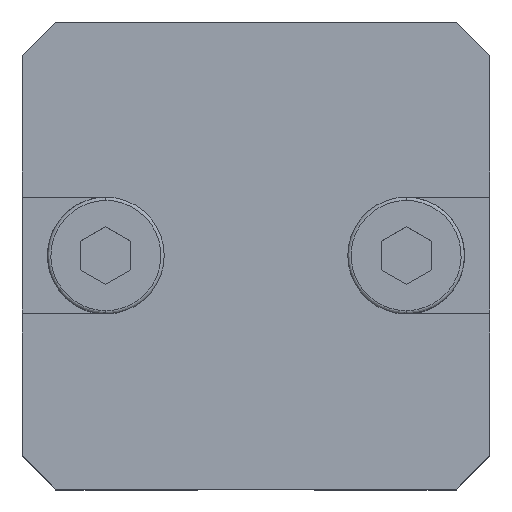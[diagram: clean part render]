
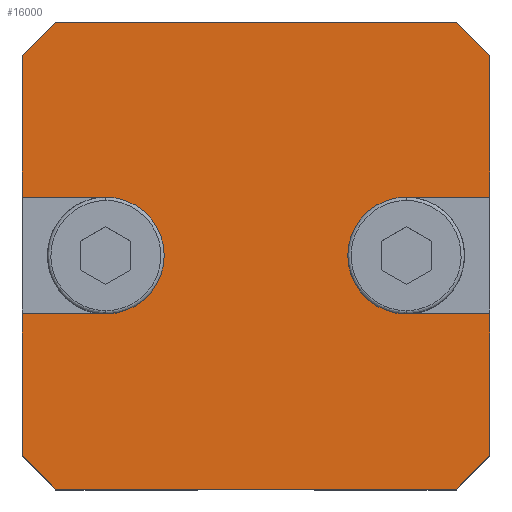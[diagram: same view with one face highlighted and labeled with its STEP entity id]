
A CAD part, top view. The second image highlights one B-rep face of the part: STEP entity #16000.
In plain terms, the highlighted planar face has unit normal (0, 0, 1).
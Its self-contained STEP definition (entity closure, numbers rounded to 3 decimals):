
#407 = LINE ( 'NONE', #24123, #24714 ) ;
#468 = CARTESIAN_POINT ( 'NONE',  ( -52.372, 65.029, 16.5 ) ) ;
#624 = CARTESIAN_POINT ( 'NONE',  ( -49.372, 47.529, 16.5 ) ) ;
#784 = AXIS2_PLACEMENT_3D ( 'NONE', #8984, #22410, #10919 ) ;
#886 = CARTESIAN_POINT ( 'NONE',  ( -26.372, 39.029, 16.5 ) ) ;
#1023 = CARTESIAN_POINT ( 'NONE',  ( -49.372, 51.029, 16.5 ) ) ;
#1186 = ORIENTED_EDGE ( 'NONE', *, *, #1514, .T. ) ;
#1483 = LINE ( 'NONE', #11380, #11709 ) ;
#1514 = EDGE_CURVE ( 'NONE', #20495, #19799, #12540, .T. ) ;
#1616 = EDGE_CURVE ( 'NONE', #24401, #8280, #12184, .T. ) ;
#1786 = CARTESIAN_POINT ( 'NONE',  ( -26.372, 54.529, 16.5 ) ) ;
#1909 = EDGE_CURVE ( 'NONE', #23771, #16761, #19978, .T. ) ;
#1986 = VERTEX_POINT ( 'NONE', #10712 ) ;
#2130 = VECTOR ( 'NONE', #15523, 1000. ) ;
#2297 = VECTOR ( 'NONE', #20005, 1000. ) ;
#2324 = LINE ( 'NONE', #15141, #16986 ) ;
#2383 = EDGE_LOOP ( 'NONE', ( #4952, #3028, #2509, #16644, #21836, #15709, #5377, #5062, #1186, #3111, #17688, #21750, #3571, #6807, #7910, #15763, #9461 ) ) ;
#2509 = ORIENTED_EDGE ( 'NONE', *, *, #19845, .T. ) ;
#2513 = VECTOR ( 'NONE', #23601, 1000. ) ;
#2906 = DIRECTION ( 'NONE',  ( -1., 0., 0. ) ) ;
#3028 = ORIENTED_EDGE ( 'NONE', *, *, #1909, .T. ) ;
#3111 = ORIENTED_EDGE ( 'NONE', *, *, #23105, .T. ) ;
#3300 = FACE_OUTER_BOUND ( 'NONE', #2383, .T. ) ;
#3389 = VERTEX_POINT ( 'NONE', #23821 ) ;
#3536 = CARTESIAN_POINT ( 'NONE',  ( -31.372, 54.529, 16.5 ) ) ;
#3571 = ORIENTED_EDGE ( 'NONE', *, *, #24570, .T. ) ;
#3597 = CARTESIAN_POINT ( 'NONE',  ( -31.372, 47.529, 16.5 ) ) ;
#4496 = EDGE_CURVE ( 'NONE', #19330, #20495, #2324, .T. ) ;
#4562 = VECTOR ( 'NONE', #11862, 1000. ) ;
#4753 = DIRECTION ( 'NONE',  ( 0., 0., 1. ) ) ;
#4952 = ORIENTED_EDGE ( 'NONE', *, *, #8061, .T. ) ;
#5062 = ORIENTED_EDGE ( 'NONE', *, *, #4496, .T. ) ;
#5190 = EDGE_CURVE ( 'NONE', #24401, #1986, #19966, .T. ) ;
#5196 = EDGE_CURVE ( 'NONE', #3389, #10346, #24464, .T. ) ;
#5209 = VERTEX_POINT ( 'NONE', #12175 ) ;
#5309 = EDGE_CURVE ( 'NONE', #1986, #23235, #5524, .T. ) ;
#5377 = ORIENTED_EDGE ( 'NONE', *, *, #15806, .T. ) ;
#5472 = CARTESIAN_POINT ( 'NONE',  ( -49.372, 54.529, 16.5 ) ) ;
#5500 = DIRECTION ( 'NONE',  ( 0., -1., 0. ) ) ;
#5524 = CIRCLE ( 'NONE', #784, 3.5 ) ;
#5694 = EDGE_CURVE ( 'NONE', #8280, #16484, #17191, .T. ) ;
#5910 = CARTESIAN_POINT ( 'NONE',  ( -54.372, 39.029, 16.5 ) ) ;
#6405 = CARTESIAN_POINT ( 'NONE',  ( -31.372, 51.029, 16.5 ) ) ;
#6807 = ORIENTED_EDGE ( 'NONE', *, *, #5309, .F. ) ;
#6947 = CARTESIAN_POINT ( 'NONE',  ( -54.372, 39.029, 16.5 ) ) ;
#7404 = EDGE_CURVE ( 'NONE', #10346, #12153, #8679, .T. ) ;
#7910 = ORIENTED_EDGE ( 'NONE', *, *, #5190, .F. ) ;
#8061 = EDGE_CURVE ( 'NONE', #16484, #23771, #12788, .T. ) ;
#8280 = VERTEX_POINT ( 'NONE', #1786 ) ;
#8339 = DIRECTION ( 'NONE',  ( -1., 0., 0. ) ) ;
#8515 = CARTESIAN_POINT ( 'NONE',  ( -28.372, 37.029, 16.5 ) ) ;
#8570 = PLANE ( 'NONE',  #13374 ) ;
#8679 = CIRCLE ( 'NONE', #17241, 3.5 ) ;
#8956 = AXIS2_PLACEMENT_3D ( 'NONE', #6405, #19824, #8339 ) ;
#8984 = CARTESIAN_POINT ( 'NONE',  ( -31.372, 51.029, 16.5 ) ) ;
#9048 = CARTESIAN_POINT ( 'NONE',  ( -28.372, 37.029, 16.5 ) ) ;
#9080 = DIRECTION ( 'NONE',  ( 1., 0., 0. ) ) ;
#9091 = CARTESIAN_POINT ( 'NONE',  ( -52.372, 65.029, 16.5 ) ) ;
#9461 = ORIENTED_EDGE ( 'NONE', *, *, #5694, .T. ) ;
#10170 = CARTESIAN_POINT ( 'NONE',  ( -26.372, 51.029, 16.5 ) ) ;
#10268 = DIRECTION ( 'NONE',  ( 1., 0., 0. ) ) ;
#10346 = VERTEX_POINT ( 'NONE', #5472 ) ;
#10712 = CARTESIAN_POINT ( 'NONE',  ( -34.872, 51.029, 16.5 ) ) ;
#10919 = DIRECTION ( 'NONE',  ( -1., 0., 0. ) ) ;
#11021 = CARTESIAN_POINT ( 'NONE',  ( -40.372, 37.029, 16.5 ) ) ;
#11219 = CARTESIAN_POINT ( 'NONE',  ( -54.372, 47.529, 16.5 ) ) ;
#11380 = CARTESIAN_POINT ( 'NONE',  ( -40.372, 47.529, 16.5 ) ) ;
#11709 = VECTOR ( 'NONE', #24824, 1000. ) ;
#11777 = CARTESIAN_POINT ( 'NONE',  ( -52.372, 37.029, 16.5 ) ) ;
#11862 = DIRECTION ( 'NONE',  ( -0.707, -0.707, 0. ) ) ;
#12153 = VERTEX_POINT ( 'NONE', #624 ) ;
#12175 = CARTESIAN_POINT ( 'NONE',  ( -26.372, 47.529, 16.5 ) ) ;
#12184 = LINE ( 'NONE', #17217, #17257 ) ;
#12370 = VERTEX_POINT ( 'NONE', #9048 ) ;
#12540 = LINE ( 'NONE', #5910, #22759 ) ;
#12788 = LINE ( 'NONE', #22216, #17286 ) ;
#13298 = DIRECTION ( 'NONE',  ( 0., -1., 0. ) ) ;
#13374 = AXIS2_PLACEMENT_3D ( 'NONE', #16262, #4753, #18188 ) ;
#13378 = CARTESIAN_POINT ( 'NONE',  ( -54.372, 51.029, 16.5 ) ) ;
#13573 = VERTEX_POINT ( 'NONE', #15366 ) ;
#13576 = CARTESIAN_POINT ( 'NONE',  ( -40.372, 47.529, 16.5 ) ) ;
#14406 = DIRECTION ( 'NONE',  ( 0., 0., -1. ) ) ;
#14464 = LINE ( 'NONE', #11021, #18968 ) ;
#14830 = VECTOR ( 'NONE', #16229, 1000. ) ;
#14962 = EDGE_CURVE ( 'NONE', #21376, #5209, #407, .T. ) ;
#14993 = CARTESIAN_POINT ( 'NONE',  ( -28.372, 65.029, 16.5 ) ) ;
#15141 = CARTESIAN_POINT ( 'NONE',  ( -54.372, 51.029, 16.5 ) ) ;
#15366 = CARTESIAN_POINT ( 'NONE',  ( -54.372, 63.029, 16.5 ) ) ;
#15523 = DIRECTION ( 'NONE',  ( -1., 0., 0. ) ) ;
#15709 = ORIENTED_EDGE ( 'NONE', *, *, #7404, .T. ) ;
#15763 = ORIENTED_EDGE ( 'NONE', *, *, #1616, .T. ) ;
#15806 = EDGE_CURVE ( 'NONE', #12153, #19330, #17426, .T. ) ;
#16000 = ADVANCED_FACE ( 'NONE', ( #3300 ), #8570, .T. ) ;
#16229 = DIRECTION ( 'NONE',  ( -1., 0., 0. ) ) ;
#16262 = CARTESIAN_POINT ( 'NONE',  ( -54.372, 37.029, 16.5 ) ) ;
#16484 = VERTEX_POINT ( 'NONE', #23579 ) ;
#16644 = ORIENTED_EDGE ( 'NONE', *, *, #17678, .T. ) ;
#16761 = VERTEX_POINT ( 'NONE', #9091 ) ;
#16986 = VECTOR ( 'NONE', #5500, 1000. ) ;
#17132 = DIRECTION ( 'NONE',  ( 1., 0., 0. ) ) ;
#17191 = LINE ( 'NONE', #10170, #2513 ) ;
#17217 = CARTESIAN_POINT ( 'NONE',  ( -28.872, 54.529, 16.5 ) ) ;
#17241 = AXIS2_PLACEMENT_3D ( 'NONE', #1023, #14406, #2906 ) ;
#17257 = VECTOR ( 'NONE', #17132, 1000. ) ;
#17286 = VECTOR ( 'NONE', #18334, 1000. ) ;
#17426 = LINE ( 'NONE', #13576, #2130 ) ;
#17678 = EDGE_CURVE ( 'NONE', #13573, #3389, #24825, .T. ) ;
#17688 = ORIENTED_EDGE ( 'NONE', *, *, #21360, .T. ) ;
#17860 = CARTESIAN_POINT ( 'NONE',  ( -40.372, 54.529, 16.5 ) ) ;
#18188 = DIRECTION ( 'NONE',  ( 1., 0., 0. ) ) ;
#18334 = DIRECTION ( 'NONE',  ( -0.707, 0.707, 0. ) ) ;
#18407 = DIRECTION ( 'NONE',  ( 0., 1., 0. ) ) ;
#18968 = VECTOR ( 'NONE', #9080, 1000. ) ;
#19330 = VERTEX_POINT ( 'NONE', #11219 ) ;
#19336 = VECTOR ( 'NONE', #10268, 1000. ) ;
#19601 = DIRECTION ( 'NONE',  ( 0.707, -0.707, 0. ) ) ;
#19799 = VERTEX_POINT ( 'NONE', #11777 ) ;
#19824 = DIRECTION ( 'NONE',  ( 0., 0., 1. ) ) ;
#19845 = EDGE_CURVE ( 'NONE', #16761, #13573, #19904, .T. ) ;
#19904 = LINE ( 'NONE', #468, #4562 ) ;
#19966 = CIRCLE ( 'NONE', #8956, 3.5 ) ;
#19978 = LINE ( 'NONE', #21957, #14830 ) ;
#20005 = DIRECTION ( 'NONE',  ( 0.707, 0.707, 0. ) ) ;
#20495 = VERTEX_POINT ( 'NONE', #6947 ) ;
#21360 = EDGE_CURVE ( 'NONE', #12370, #21376, #22124, .T. ) ;
#21376 = VERTEX_POINT ( 'NONE', #886 ) ;
#21750 = ORIENTED_EDGE ( 'NONE', *, *, #14962, .T. ) ;
#21836 = ORIENTED_EDGE ( 'NONE', *, *, #5196, .T. ) ;
#21957 = CARTESIAN_POINT ( 'NONE',  ( -40.372, 65.029, 16.5 ) ) ;
#22124 = LINE ( 'NONE', #8515, #2297 ) ;
#22216 = CARTESIAN_POINT ( 'NONE',  ( -26.372, 63.029, 16.5 ) ) ;
#22410 = DIRECTION ( 'NONE',  ( 0., 0., 1. ) ) ;
#22759 = VECTOR ( 'NONE', #19601, 1000. ) ;
#23105 = EDGE_CURVE ( 'NONE', #19799, #12370, #14464, .T. ) ;
#23235 = VERTEX_POINT ( 'NONE', #3597 ) ;
#23579 = CARTESIAN_POINT ( 'NONE',  ( -26.372, 63.029, 16.5 ) ) ;
#23601 = DIRECTION ( 'NONE',  ( 0., 1., 0. ) ) ;
#23771 = VERTEX_POINT ( 'NONE', #14993 ) ;
#23821 = CARTESIAN_POINT ( 'NONE',  ( -54.372, 54.529, 16.5 ) ) ;
#24123 = CARTESIAN_POINT ( 'NONE',  ( -26.372, 51.029, 16.5 ) ) ;
#24217 = VECTOR ( 'NONE', #13298, 1000. ) ;
#24401 = VERTEX_POINT ( 'NONE', #3536 ) ;
#24464 = LINE ( 'NONE', #17860, #19336 ) ;
#24570 = EDGE_CURVE ( 'NONE', #5209, #23235, #1483, .T. ) ;
#24714 = VECTOR ( 'NONE', #18407, 1000. ) ;
#24825 = LINE ( 'NONE', #13378, #24217 ) ;
#24824 = DIRECTION ( 'NONE',  ( -1., 0., 0. ) ) ;
